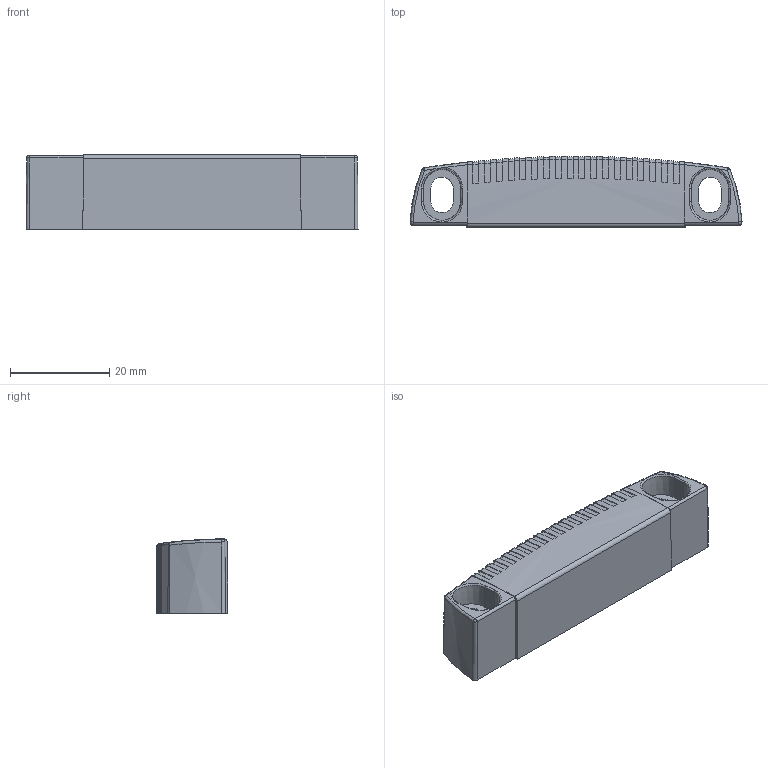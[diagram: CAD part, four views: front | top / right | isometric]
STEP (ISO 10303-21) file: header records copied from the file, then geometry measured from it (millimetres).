
FILE_DESCRIPTION(/* description */ (''),/* implementation_level */ '2;1');
FILE_NAME(/* name */ '815922_B_1-Magnetgehäuse.stp',/* time_stamp */ '2020-02-06T16:03:44+01:00',/* author */ (''),/* organization */ (''),/* preprocessor_version */ 'ST-DEVELOPER v16',/* originating_system */ 'SIEMENS PLM Software NX 11.0',/* authorisation */ '');
FILE_SCHEMA (('AP203_CONFIGURATION_CONTROLLED_3D_DESIGN_OF_MECHANICAL_PARTS_AND_ASSEMBLIES_MIM_LF { 1 0 10303 403 2 1 2}'));
Length unit declared in the file: millimetre
Products named in the file (1): hi2n4F1007E79v74
Bounding box: 66.91 x 14.5 x 15 mm (x, y, z)
Volume: 11039.9 mm3; surface area: 4808.1 mm2
Topology: 1 solids, 1 shells, 232 faces, 657 edges, 425 vertices
Faces by surface type: plane 74, cone 59, bspline 53, cylinder 46
Entity records: 8460 total; most frequent: CARTESIAN_POINT 3018, ORIENTED_EDGE 1304, DIRECTION 881, EDGE_CURVE 652, VERTEX_POINT 424, AXIS2_PLACEMENT_3D 320, B_SPLINE_CURVE_WITH_KNOTS 256, LINE 241
